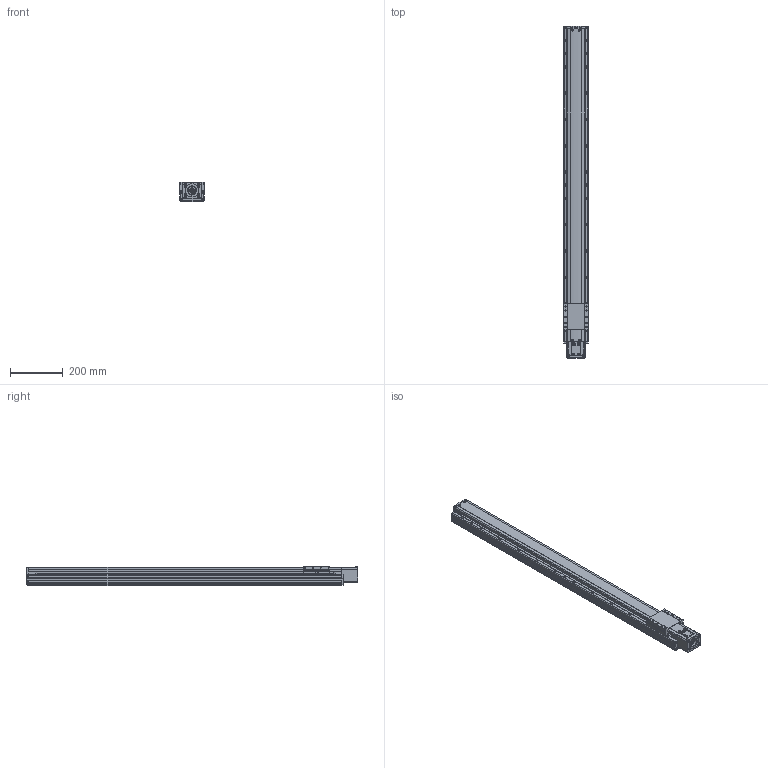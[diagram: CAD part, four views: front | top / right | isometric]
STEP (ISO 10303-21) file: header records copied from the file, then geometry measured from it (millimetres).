
FILE_DESCRIPTION(('STEP AP214'),'1');
FILE_NAME('Z:/Web/3D/PSA95/STP/PSA95-1000 (3D)/PSA95ㅁㅁ-1000S.stp','2014-07-03T01:02:09',(' '),(' '),'Spatial InterOp 3D',' ',' ');
FILE_SCHEMA(('automotive_design'));
Length unit declared in the file: millimetre
Products named in the file (35): BASE; RRCV; 스크루 : Round - M4.0 x 10.0; 너트 : Square - M10.0 x 220.7419; RR1500; FRCV-090; 스크루 : Round - M4.0 x 6.0; SLBL-PA90; SSFX-SAN65; CPLCV-SAN65; 스크루 : Round - M3.0 x 6.0; MTHZ-PA70/90-S60A-3; 스크루 : Socket - M4.0 x 20.0; NONE
Bounding box: 95 x 1262.5 x 74 mm (x, y, z)
Volume: 6612839.5 mm3; surface area: 675892.4 mm2
Topology: 35 solids, 69 shells, 3159 faces, 8124 edges, 5108 vertices
Faces by surface type: plane 1470, cylinder 1046, cone 407, torus 158, sphere 46, bspline 32
Entity records: 124700 total; most frequent: CARTESIAN_POINT 20655, DIRECTION 16984, ORIENTED_EDGE 15912, EDGE_CURVE 7956, AXIS2_PLACEMENT_3D 6119, VERTEX_POINT 5108, LINE 4746, VECTOR 4746
